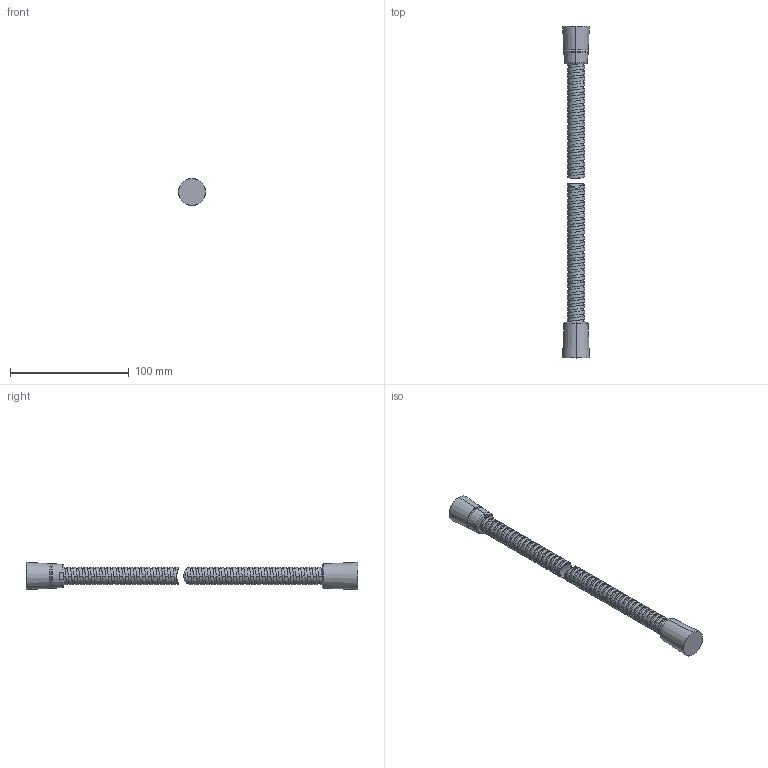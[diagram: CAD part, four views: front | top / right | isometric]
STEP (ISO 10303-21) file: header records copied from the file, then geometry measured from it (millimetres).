
FILE_DESCRIPTION((''),'2;1');
FILE_NAME('76692--00','2026-09-10T14:39:49',('simi1'),(''),'CREO PARAMETRIC BY PTC INC, 2022244','CREO PARAMETRIC BY PTC INC, 2022244','');
FILE_SCHEMA(('AUTOMOTIVE_DESIGN { 1 0 10303 214 1 1 1 1 }'));
Length unit declared in the file: millimetre
Products named in the file (1): 76692--00
Bounding box: 22.98 x 279.9 x 22.98 mm (x, y, z)
Surface area: 19879.3 mm2 (no closed solid volume)
Topology: 0 solids, 6 shells, 175 faces, 476 edges, 307 vertices
Faces by surface type: cylinder 105, bspline 44, torus 10, plane 8, cone 8
Entity records: 21844 total; most frequent: CARTESIAN_POINT 17972, ORIENTED_EDGE 916, DIRECTION 492, EDGE_CURVE 476, VERTEX_POINT 307, B_SPLINE_CURVE_WITH_KNOTS 286, EDGE_LOOP 175, FACE_OUTER_BOUND 175
